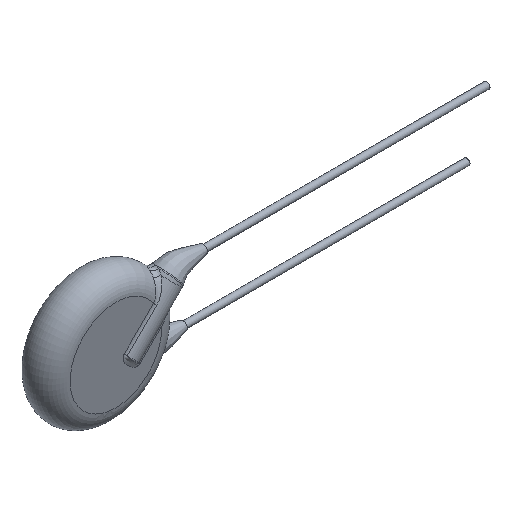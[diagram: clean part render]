
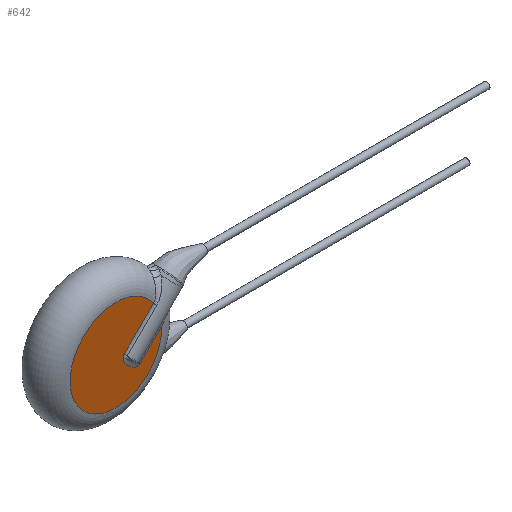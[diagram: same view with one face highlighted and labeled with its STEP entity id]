
A CAD part, isometric view. The second image highlights one B-rep face of the part: STEP entity #642.
In plain terms, the highlighted planar face has unit normal (0, -1, 0).
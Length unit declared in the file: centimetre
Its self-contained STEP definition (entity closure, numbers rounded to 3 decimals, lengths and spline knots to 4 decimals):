
#22=LINE('',#961,#30);
#24=LINE('',#1230,#32);
#30=VECTOR('',#754,0.2889);
#32=VECTOR('',#772,0.3944);
#45=B_SPLINE_CURVE_WITH_KNOTS('',3,(#930,#931,#932,#933,#934,#935,#936,
#937,#938,#939,#940,#941),.UNSPECIFIED.,.F.,.F.,(4,1,1,1,1,1,1,1,1,4),(0.2638,
0.2826,0.3015,0.3392,0.3768,
0.4145,0.4522,0.4899,0.5087,
0.5276),.UNSPECIFIED.);
#133=FACE_OUTER_BOUND('',#179,.T.);
#179=EDGE_LOOP('',(#455,#456,#457,#458));
#226=CIRCLE('',#694,0.435);
#252=VERTEX_POINT('',#927);
#253=VERTEX_POINT('',#929);
#255=VERTEX_POINT('',#957);
#269=VERTEX_POINT('',#1215);
#308=EDGE_CURVE('',#252,#253,#45,.T.);
#313=EDGE_CURVE('',#253,#255,#22,.T.);
#336=EDGE_CURVE('',#269,#252,#24,.T.);
#345=EDGE_CURVE('',#255,#269,#226,.T.);
#455=ORIENTED_EDGE('',*,*,#313,.F.);
#456=ORIENTED_EDGE('',*,*,#308,.F.);
#457=ORIENTED_EDGE('',*,*,#336,.F.);
#458=ORIENTED_EDGE('',*,*,#345,.F.);
#581=PLANE('',#695);
#642=ADVANCED_FACE('',(#133),#581,.F.);
#694=AXIS2_PLACEMENT_3D('',#1274,#777,#778);
#695=AXIS2_PLACEMENT_3D('',#1275,#779,#780);
#754=DIRECTION('',(0.707,0.,0.707));
#772=DIRECTION('',(-0.707,0.,-0.707));
#777=DIRECTION('center_axis',(0.,1.,0.));
#778=DIRECTION('ref_axis',(-1.,0.,0.));
#779=DIRECTION('center_axis',(0.,1.,0.));
#780=DIRECTION('ref_axis',(1.,0.,0.));
#927=CARTESIAN_POINT('',(0.0794,-0.125,-0.032));
#929=CARTESIAN_POINT('',(0.2302,-0.125,-0.1829));
#930=CARTESIAN_POINT('Ctrl Pts',(0.0794,-0.125,-0.032));
#931=CARTESIAN_POINT('Ctrl Pts',(0.0749,-0.125,-0.0365));
#932=CARTESIAN_POINT('Ctrl Pts',(0.0686,-0.125,-0.0478));
#933=CARTESIAN_POINT('Ctrl Pts',(0.0672,-0.125,-0.0734));
#934=CARTESIAN_POINT('Ctrl Pts',(0.0796,-0.125,-0.103));
#935=CARTESIAN_POINT('Ctrl Pts',(0.1027,-0.125,-0.1328));
#936=CARTESIAN_POINT('Ctrl Pts',(0.1294,-0.125,-0.1595));
#937=CARTESIAN_POINT('Ctrl Pts',(0.1592,-0.125,-0.1826));
#938=CARTESIAN_POINT('Ctrl Pts',(0.1888,-0.125,-0.1951));
#939=CARTESIAN_POINT('Ctrl Pts',(0.2145,-0.125,-0.1937));
#940=CARTESIAN_POINT('Ctrl Pts',(0.2257,-0.125,-0.1873));
#941=CARTESIAN_POINT('Ctrl Pts',(0.2302,-0.125,-0.1829));
#957=CARTESIAN_POINT('',(0.4345,-0.125,0.0214));
#961=CARTESIAN_POINT('',(0.6418,-0.125,0.2288));
#1215=CARTESIAN_POINT('',(0.3582,-0.125,0.2468));
#1230=CARTESIAN_POINT('',(0.491,-0.125,0.3796));
#1274=CARTESIAN_POINT('Origin',(0.,-0.125,0.));
#1275=CARTESIAN_POINT('Origin',(0.,-0.125,0.));
